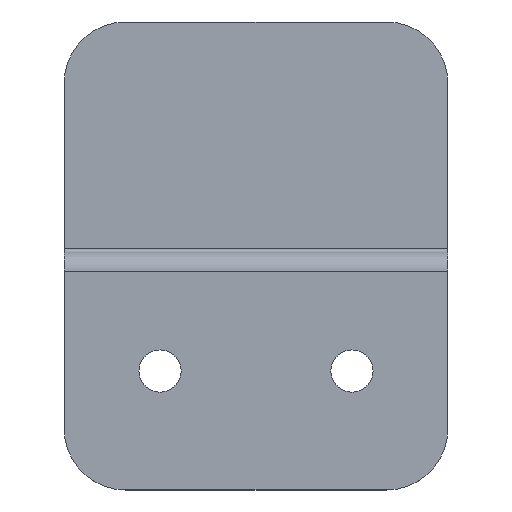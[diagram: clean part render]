
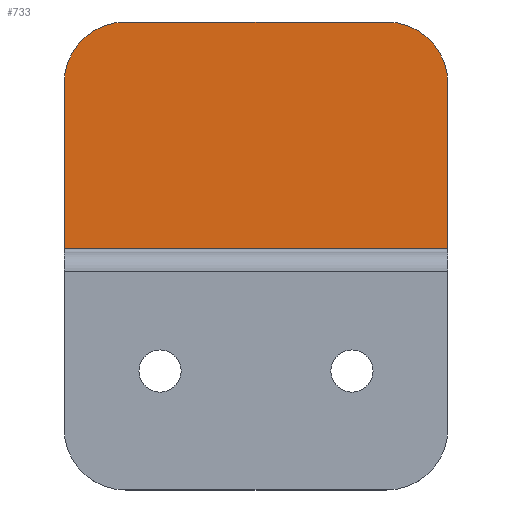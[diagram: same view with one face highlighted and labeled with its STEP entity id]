
A CAD part, top view. The second image highlights one B-rep face of the part: STEP entity #733.
In plain terms, the highlighted planar face has unit normal (0, 0, 1).
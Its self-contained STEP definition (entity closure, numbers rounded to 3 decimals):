
#24 = ORIENTED_EDGE ( 'NONE', *, *, #399, .T. ) ;
#34 = ORIENTED_EDGE ( 'NONE', *, *, #756, .F. ) ;
#35 = DIRECTION ( 'NONE',  ( 0., 0., -1. ) ) ;
#75 = CARTESIAN_POINT ( 'NONE',  ( 25., 240.5, -20. ) ) ;
#77 = DIRECTION ( 'NONE',  ( 1., 0., 0. ) ) ;
#110 = AXIS2_PLACEMENT_3D ( 'NONE', #467, #639, #407 ) ;
#121 = CARTESIAN_POINT ( 'NONE',  ( 25., 270., -20. ) ) ;
#136 = AXIS2_PLACEMENT_3D ( 'NONE', #687, #281, #517 ) ;
#198 = ORIENTED_EDGE ( 'NONE', *, *, #305, .T. ) ;
#224 = CARTESIAN_POINT ( 'NONE',  ( -25., 270., -20. ) ) ;
#256 = VERTEX_POINT ( 'NONE', #301 ) ;
#263 = CARTESIAN_POINT ( 'NONE',  ( -25., 262., -20. ) ) ;
#270 = VERTEX_POINT ( 'NONE', #263 ) ;
#278 = DIRECTION ( 'NONE',  ( 0., -1., 0. ) ) ;
#281 = DIRECTION ( 'NONE',  ( 0., 0., -1. ) ) ;
#285 = DIRECTION ( 'NONE',  ( 0., -1., 0. ) ) ;
#301 = CARTESIAN_POINT ( 'NONE',  ( 25., 262., -20. ) ) ;
#305 = EDGE_CURVE ( 'NONE', #375, #342, #493, .T. ) ;
#311 = VECTOR ( 'NONE', #77, 1000. ) ;
#329 = VECTOR ( 'NONE', #488, 1000. ) ;
#342 = VERTEX_POINT ( 'NONE', #75 ) ;
#343 = PLANE ( 'NONE',  #356 ) ;
#356 = AXIS2_PLACEMENT_3D ( 'NONE', #397, #35, #285 ) ;
#375 = VERTEX_POINT ( 'NONE', #389 ) ;
#388 = CARTESIAN_POINT ( 'NONE',  ( -17., 270., -20. ) ) ;
#389 = CARTESIAN_POINT ( 'NONE',  ( -25., 240.5, -20. ) ) ;
#397 = CARTESIAN_POINT ( 'NONE',  ( -25., 270., -20. ) ) ;
#399 = EDGE_CURVE ( 'NONE', #270, #375, #648, .T. ) ;
#403 = LINE ( 'NONE', #453, #622 ) ;
#407 = DIRECTION ( 'NONE',  ( 0., -1., 0. ) ) ;
#412 = EDGE_CURVE ( 'NONE', #686, #760, #403, .T. ) ;
#422 = ORIENTED_EDGE ( 'NONE', *, *, #589, .F. ) ;
#453 = CARTESIAN_POINT ( 'NONE',  ( -25., 270., -20. ) ) ;
#463 = EDGE_CURVE ( 'NONE', #270, #686, #472, .T. ) ;
#467 = CARTESIAN_POINT ( 'NONE',  ( -17., 262., -20. ) ) ;
#472 = CIRCLE ( 'NONE', #110, 8. ) ;
#480 = LINE ( 'NONE', #121, #329 ) ;
#488 = DIRECTION ( 'NONE',  ( 0., -1., 0. ) ) ;
#493 = LINE ( 'NONE', #497, #311 ) ;
#497 = CARTESIAN_POINT ( 'NONE',  ( -25., 240.5, -20. ) ) ;
#504 = VECTOR ( 'NONE', #278, 1000. ) ;
#506 = EDGE_LOOP ( 'NONE', ( #24, #198, #422, #34, #512, #732 ) ) ;
#512 = ORIENTED_EDGE ( 'NONE', *, *, #412, .F. ) ;
#517 = DIRECTION ( 'NONE',  ( 0., -1., 0. ) ) ;
#528 = CARTESIAN_POINT ( 'NONE',  ( 17., 270., -20. ) ) ;
#589 = EDGE_CURVE ( 'NONE', #256, #342, #480, .T. ) ;
#622 = VECTOR ( 'NONE', #749, 1000. ) ;
#639 = DIRECTION ( 'NONE',  ( 0., 0., -1. ) ) ;
#648 = LINE ( 'NONE', #224, #504 ) ;
#686 = VERTEX_POINT ( 'NONE', #388 ) ;
#687 = CARTESIAN_POINT ( 'NONE',  ( 17., 262., -20. ) ) ;
#696 = FACE_OUTER_BOUND ( 'NONE', #506, .T. ) ;
#732 = ORIENTED_EDGE ( 'NONE', *, *, #463, .F. ) ;
#733 = ADVANCED_FACE ( 'NONE', ( #696 ), #343, .F. ) ;
#749 = DIRECTION ( 'NONE',  ( 1., 0., 0. ) ) ;
#756 = EDGE_CURVE ( 'NONE', #760, #256, #766, .T. ) ;
#760 = VERTEX_POINT ( 'NONE', #528 ) ;
#766 = CIRCLE ( 'NONE', #136, 8. ) ;
